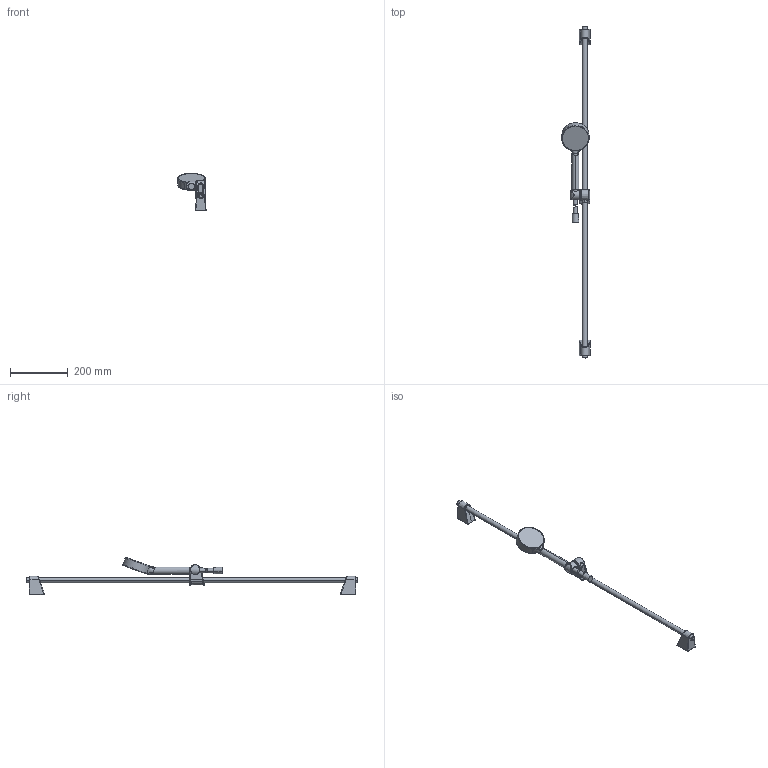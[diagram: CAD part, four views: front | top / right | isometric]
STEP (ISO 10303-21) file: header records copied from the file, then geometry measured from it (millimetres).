
FILE_DESCRIPTION (( 'STEP AP203' ), '1' );
FILE_NAME ('5590(2022).STEP', '2022-03-17T12:37:57', ( '' ), ( '' ), 'SwSTEP 2.0', 'SolidWorks 2016', '' );
FILE_SCHEMA (( 'CONFIG_CONTROL_DESIGN' ));
Length unit declared in the file: millimetre
Products named in the file (1): 5590(2022)
Bounding box: 98.6 x 1153.24 x 129.1 mm (x, y, z)
Volume: 872244.3 mm3; surface area: 152510.8 mm2
Topology: 12 solids, 18 shells, 293 faces, 666 edges, 408 vertices
Faces by surface type: bspline 134, cylinder 46, plane 44, torus 38, cone 27, sphere 4
Entity records: 26903 total; most frequent: CARTESIAN_POINT 21376, ORIENTED_EDGE 1320, DIRECTION 835, EDGE_CURVE 660, VERTEX_POINT 408, AXIS2_PLACEMENT_3D 372, B_SPLINE_CURVE_WITH_KNOTS 334, EDGE_LOOP 298
